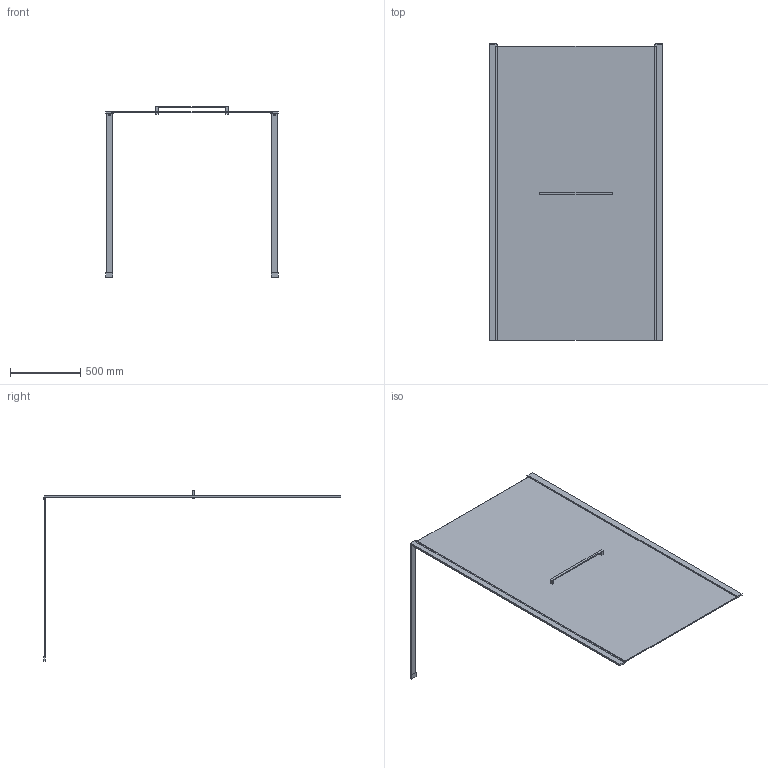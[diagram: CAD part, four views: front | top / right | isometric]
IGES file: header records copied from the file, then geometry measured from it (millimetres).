
Start section: SolidWorks IGES file using analytic representation for surfaces
Global section: file name: D:\Users\M.Szymanski\Desktop\Kabiny\PII_ALT2\03. do przegrania\PII_ALTIIa_120_wspornik poziomy_K3D.IGS; native system: SolidWorks 2011; preprocessor: SolidWorks 2011; author: M.Szymanski; date: 181003.110035; units: millimetre
Bounding box: 1232.8 x 2124.7 x 1220.5 mm (x, y, z)
Surface area: 5789211.6 mm2 (no closed solid volume)
Topology: 0 solids, 0 shells, 70 faces, 440 edges, 556 vertices
Faces by surface type: bspline 62, revolution 8
